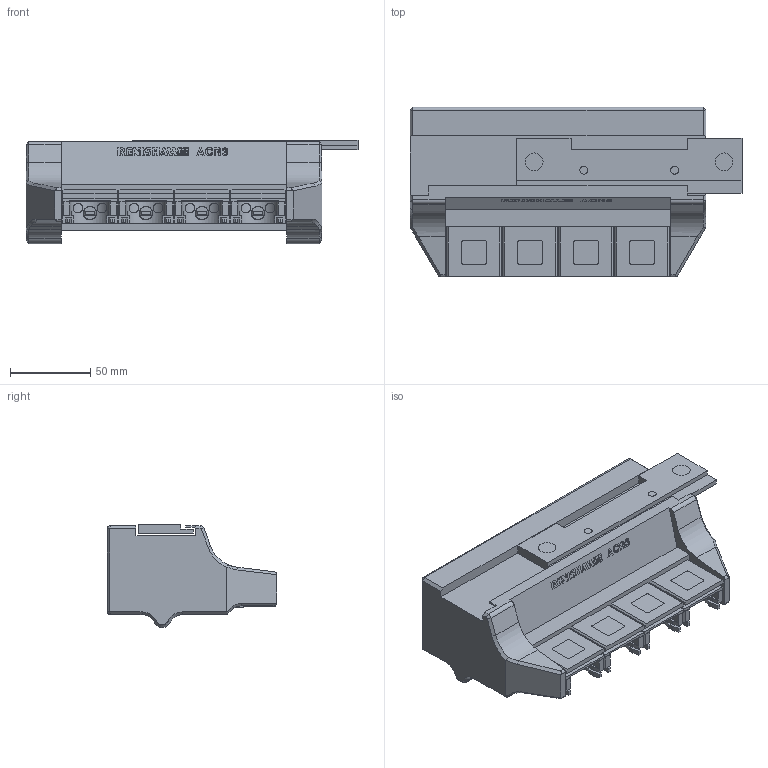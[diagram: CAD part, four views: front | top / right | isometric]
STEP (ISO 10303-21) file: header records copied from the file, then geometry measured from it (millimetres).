
FILE_DESCRIPTION(/* description */ (''),/* implementation_level */ '2;1');
FILE_NAME(/* name */ 'LA-5036-0005#-E.stp',/* time_stamp */ '2012-09-04T12:57:35+01:00',/* author */ (''),/* organization */ (''),/* preprocessor_version */ 'ST-DEVELOPER v11',/* originating_system */ 'SIEMENS PLM Software NX 7.5',/* authorisation */ '');
FILE_SCHEMA (('AUTOMOTIVE_DESIGN { 1 0 10303 214 1 1 1 1 }'));
Length unit declared in the file: millimetre
Products named in the file (1): rt133622tjk7
Bounding box: 207.49 x 106 x 64.59 mm (x, y, z)
Volume: 748014.3 mm3; surface area: 102125.6 mm2
Topology: 6 solids, 6 shells, 589 faces, 2063 edges, 1558 vertices
Faces by surface type: plane 471, cylinder 71, bspline 25, cone 22
Full cylindrical faces by diameter (mm): 7.975 x4, 8.475 x4
Entity records: 27551 total; most frequent: CARTESIAN_POINT 6312, ORIENTED_EDGE 4094, DIRECTION 2886, EDGE_CURVE 2047, VERTEX_POINT 1550, LINE 1290, VECTOR 1290, AXIS2_PLACEMENT_3D 798
